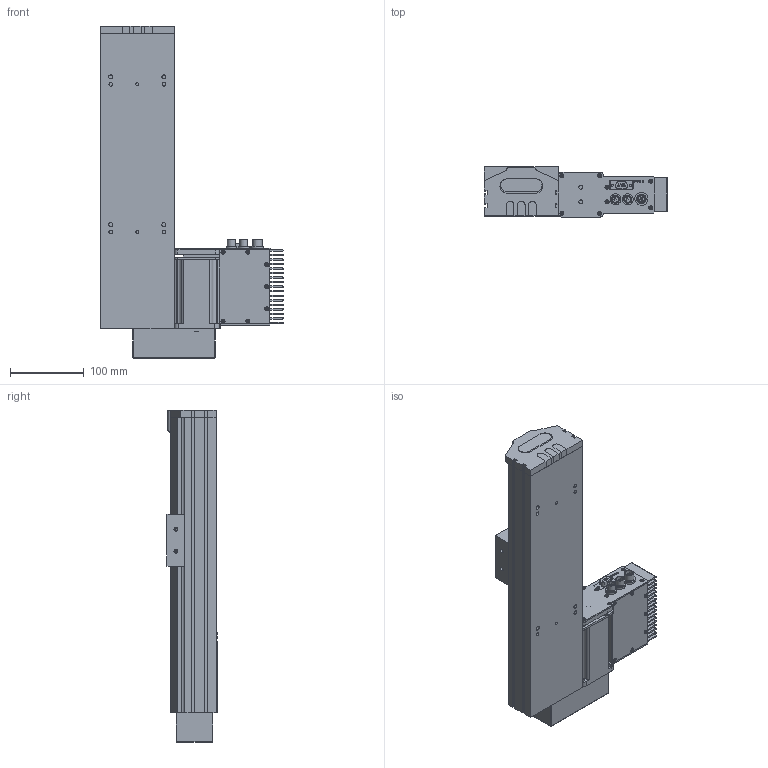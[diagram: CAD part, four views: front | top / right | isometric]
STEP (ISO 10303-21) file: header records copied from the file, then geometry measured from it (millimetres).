
FILE_DESCRIPTION (( 'STEP AP203' ), '1' );
FILE_NAME ('S10 TSN BR S200.STEP', '2012-08-31T13:40:43', ( 'Conseil Régional Haute-Normandie' ), ( 'Conseil Régional Haute-Normandie' ), 'SwSTEP 2.0', 'SolidWorks 2010', '' );
FILE_SCHEMA (( 'CONFIG_CONTROL_DESIGN' ));
Length unit declared in the file: millimetre
Products named in the file (25): Colonnette_3; BU45 Carte d''axe A11_5; Connecteur rond D12 4cts_5; Sub D 9cts 90_X2_00B_X0__3; Vis TF 3 torkx_1_1; axe387; renvoi LH_Default; palette tbn; Vis TF 3 torkx; S10 TSN BR S200; Assem1_7; T_X2_00F4_X0_le contre le moteur_5; BU41 Carte Alimentation P05_3; Moteur 60BLDC90A_3; Couvercle_3; T_X2_00F4_X0_le fond_3; Connecteur rond D10 3cts_5; Radiateur profil_X2_00E9_X0_ 100x25_3; Colonnette ronde_3; T_X2_00F4_X0_le Arri_X2_00E8_X0_re_5; T_X2_00F4_X0_le lat_X2_00E9_X0_rale_5; piece_plastique remplie_Default; embout_modifié; remplir_Default; Pièce2_Default
Assembly tree (55 placements, depth 3):
  S10 TSN BR S200
    Assem1_7
      T_X2_00F4_X0_le Arri_X2_00E8_X0_re_5
      T_X2_00F4_X0_le lat_X2_00E9_X0_rale_5  x2
      Moteur 60BLDC90A_3
      Connecteur rond D10 3cts_5  x2
      T_X2_00F4_X0_le contre le moteur_5
      Vis TF 3 torkx_1_1  x21
      T_X2_00F4_X0_le fond_3
      Colonnette_3  x2
      Sub D 9cts 90_X2_00B_X0__3
      Radiateur profil_X2_00E9_X0_ 100x25_3
      Connecteur rond D12 4cts_5
      BU41 Carte Alimentation P05_3
      BU45 Carte d''axe A11_5
      Couvercle_3
      Colonnette ronde_3
    Vis TF 3 torkx  x7
    piece_plastique remplie_Default
      Pièce2_Default
      remplir_Default  x3
      embout_modifié
    palette tbn
    axe387
    renvoi LH_Default
Bounding box: 248 x 67.78 x 449.5 mm (x, y, z)
Volume: 2820400.5 mm3; surface area: 474215.9 mm2
Topology: 53 solids, 53 shells, 1930 faces, 4920 edges, 3206 vertices
Faces by surface type: plane 918, cylinder 849, cone 156, bspline 4, torus 3
Entity records: 37591 total; most frequent: CARTESIAN_POINT 6356, DIRECTION 6079, ORIENTED_EDGE 5548, EDGE_CURVE 2774, AXIS2_PLACEMENT_3D 2218, VERTEX_POINT 1818, VECTOR 1643, LINE 1643
